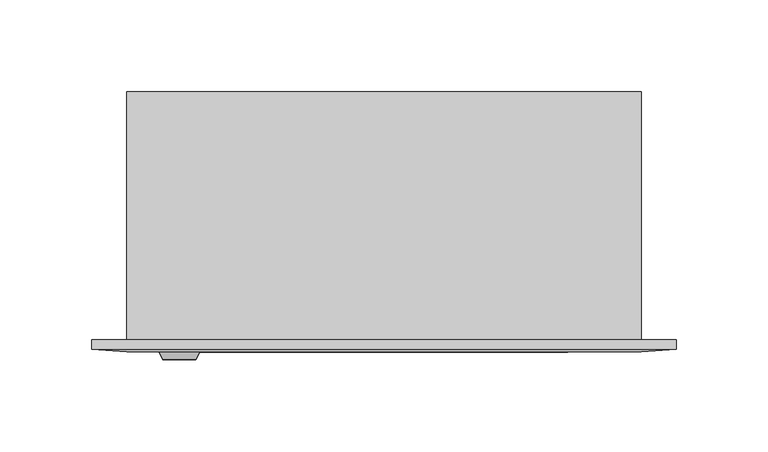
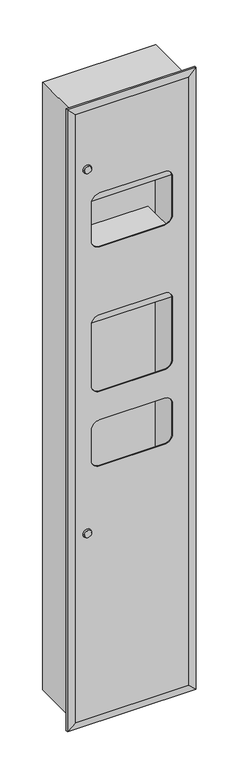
"""IFC4 building model written with IfcOpenShell, lengths in millimetres: proxy geometry, Hand Dryer_3 In 1_Metlam_Eco_Recessed : 318w x 142d x 1625h (ML_ECO_73N1REC)."""

from ifc_helpers import new_model, si_unit, frame, origin, place, context, project, spatial, polyline, circle_curve, outline, extrude, faceted_brep, source, transform, mapped, element, save
from ifc_brep_helpers import plane_surface, revolved_surface, advanced_brep


def specialty_equipment_ddab9f5c(model_context):
    return source(origin(), model_context, "Body", "SolidModel", [
        advanced_brep(
        [(140.0, -135.0, 18.5), (140.0, -135.0, 1606.5), (-140.0, -135.0, 1606.5), (-140.0, -135.0, 18.5), (-138.0, -135.0, 1604.5), (138.0, -135.0, 1604.5), (138.0, -135.0, 20.5), (-138.0, -135.0, 20.5), (-140.0, 0.0, 1606.5), (140.0, 0.0, 1606.5), (140.0, 0.0, 18.5), (-140.0, 0.0, 18.5), (95.0523589, 0.0, 1063.5), (105.0523589, 0.0, 1063.5), (-140.0, -2.0, 18.5), (-140.0, -135.0, 18.5), (-140.0, -135.0, 1606.5), (-140.0, -2.0, 1606.5), (140.0, -2.0, 18.5), (140.0, -135.0, 18.5), (140.0, -2.0, 1606.5), (140.0, -135.0, 1606.5), (-138.0, -2.0, 1604.5), (138.0, -2.0, 1604.5), (138.0, -2.0, 20.5), (-138.0, -2.0, 20.5), (105.0523589, -2.0, 1063.5), (95.0523589, -2.0, 1063.5), (140.0, -141.5, 1606.5), (-140.0, -141.5, 1606.5), (-140.0, -141.5, 18.5), (140.0, -141.5, 18.5), (-100.0, -141.5, 1361.5), (-80.0, -141.5, 1381.5), (80.0, -141.5, 1381.5), (100.0, -141.5, 1361.5), (100.0, -141.5, 1261.5), (80.0, -141.5, 1241.5), (-80.0, -141.5, 1241.5), (-100.0, -141.5, 1261.5), (80.0, -141.5, 863.5), (-80.0, -141.5, 863.5), (-100.0, -141.5, 883.5), (-100.0, -141.5, 1043.5), (-80.0, -141.5, 1063.5), (80.0, -141.5, 1063.5), (100.0, -141.5, 1043.5), (100.0, -141.5, 883.5), (-100.0, -141.5, 688.5), (-100.0, -141.5, 768.5), (-80.0, -141.5, 788.5), (80.0, -141.5, 788.5), (100.0, -141.5, 768.5), (100.0, -141.5, 688.5), (80.0, -141.5, 668.5), (-80.0, -141.5, 668.5), (140.0, -140.0, 1606.5), (140.0, -140.0, 18.5), (-140.0, -140.0, 18.5), (-140.0, -140.0, 1606.5), (-80.0, -140.0, 1381.5), (-100.0, -140.0, 1361.5), (-100.0, -140.0, 1261.5), (-80.0, -140.0, 1241.5), (80.0, -140.0, 1241.5), (100.0, -140.0, 1261.5), (100.0, -140.0, 1361.5), (80.0, -140.0, 1381.5), (-80.0, -140.0, 863.5), (80.0, -140.0, 863.5), (100.0, -140.0, 883.5), (100.0, -140.0, 1043.5), (80.0, -140.0, 1063.5), (-80.0, -140.0, 1063.5), (-100.0, -140.0, 1043.5), (-100.0, -140.0, 883.5), (-100.0, -140.0, 768.5), (-100.0, -140.0, 688.5), (-80.0, -140.0, 668.5), (80.0, -140.0, 668.5), (100.0, -140.0, 688.5), (100.0, -140.0, 768.5), (80.0, -140.0, 788.5), (-80.0, -140.0, 788.5), (159.0, -140.0, 1625.0), (-159.0, -140.0, 1625.0), (-159.0, -140.0, 0.0), (159.0, -140.0, 0.0), (-159.0, -135.0, 0.0), (-159.0, -135.0, 1625.0), (159.0, -135.0, 1625.0), (159.0, -135.0, 0.0)],
        [
            (0, 1),
            (1, 2),
            (2, 3),
            (3, 0),
            (4, 5),
            (5, 6),
            (6, 7),
            (7, 4),
            (8, 9),
            (9, 10),
            (10, 11),
            (11, 8),
            (12, 13, circle_curve(frame((100.0523589, 0.0, 1063.5), z_axis=(0.0, -1.0, 0.0), x_axis=(1.0, 0.0, 0.0)), 5.0)),
            (13, 12, circle_curve(frame((100.0523589, 0.0, 1063.5), z_axis=(0.0, -1.0, 0.0), x_axis=(1.0, 0.0, 0.0)), 5.0)),
            (11, 14),
            (14, 15),
            (15, 16),
            (16, 17),
            (17, 8),
            (10, 18),
            (18, 19),
            (19, 15),
            (9, 20),
            (20, 21),
            (21, 19),
            (16, 21),
            (4, 22),
            (22, 23),
            (23, 5),
            (23, 24),
            (24, 6),
            (24, 25),
            (25, 7),
            (25, 22),
            (26, 27, circle_curve(frame((100.0523589, -2.0, 1063.5), z_axis=(0.0, 1.0, 0.0), x_axis=(1.0, 0.0, 0.0)), 5.0)),
            (27, 26, circle_curve(frame((100.0523589, -2.0, 1063.5), z_axis=(0.0, 1.0, 0.0), x_axis=(1.0, 0.0, 0.0)), 5.0)),
            (28, 29),
            (29, 30),
            (30, 31),
            (31, 28),
            (32, 33, circle_curve(frame((-80.0, -141.5, 1361.5), z_axis=(0.0, 1.0, 0.0), x_axis=(1.0, 0.0, 0.0)), 20.0)),
            (33, 34),
            (34, 35, circle_curve(frame((80.0, -141.5, 1361.5), z_axis=(0.0, 1.0, 0.0), x_axis=(1.0, 0.0, 0.0)), 20.0)),
            (35, 36),
            (36, 37, circle_curve(frame((80.0, -141.5, 1261.5), z_axis=(0.0, 1.0, 0.0), x_axis=(1.0, 0.0, 0.0)), 20.0)),
            (37, 38),
            (38, 39, circle_curve(frame((-80.0, -141.5, 1261.5), z_axis=(0.0, 1.0, 0.0), x_axis=(1.0, 0.0, 0.0)), 20.0)),
            (39, 32),
            (40, 41),
            (41, 42, circle_curve(frame((-80.0, -141.5, 883.5), z_axis=(0.0, 1.0, 0.0), x_axis=(1.0, 0.0, 0.0)), 20.0)),
            (42, 43),
            (43, 44, circle_curve(frame((-80.0, -141.5, 1043.5), z_axis=(0.0, 1.0, 0.0), x_axis=(1.0, 0.0, 0.0)), 20.0)),
            (44, 45),
            (45, 46, circle_curve(frame((80.0, -141.5, 1043.5), z_axis=(0.0, 1.0, 0.0), x_axis=(1.0, 0.0, 0.0)), 20.0)),
            (46, 47),
            (47, 40, circle_curve(frame((80.0, -141.5, 883.5), z_axis=(0.0, 1.0, 0.0), x_axis=(1.0, 0.0, 0.0)), 20.0)),
            (48, 49),
            (49, 50, circle_curve(frame((-80.0, -141.5, 768.5), z_axis=(0.0, 1.0, 0.0), x_axis=(1.0, 0.0, 0.0)), 20.0)),
            (50, 51),
            (51, 52, circle_curve(frame((80.0, -141.5, 768.5), z_axis=(0.0, 1.0, 0.0), x_axis=(1.0, 0.0, 0.0)), 20.0)),
            (52, 53),
            (53, 54, circle_curve(frame((80.0, -141.5, 688.5), z_axis=(0.0, 1.0, 0.0), x_axis=(1.0, 0.0, 0.0)), 20.0)),
            (54, 55),
            (55, 48, circle_curve(frame((-80.0, -141.5, 688.5), z_axis=(0.0, 1.0, 0.0), x_axis=(1.0, 0.0, 0.0)), 20.0)),
            (56, 57),
            (57, 58),
            (58, 59),
            (59, 56),
            (60, 61, circle_curve(frame((-80.0, -140.0, 1361.5), z_axis=(0.0, -1.0, 0.0), x_axis=(1.0, 0.0, 0.0)), 20.0)),
            (61, 62),
            (62, 63, circle_curve(frame((-80.0, -140.0, 1261.5), z_axis=(0.0, -1.0, 0.0), x_axis=(1.0, 0.0, 0.0)), 20.0)),
            (63, 64),
            (64, 65, circle_curve(frame((80.0, -140.0, 1261.5), z_axis=(0.0, -1.0, 0.0), x_axis=(1.0, 0.0, 0.0)), 20.0)),
            (65, 66),
            (66, 67, circle_curve(frame((80.0, -140.0, 1361.5), z_axis=(0.0, -1.0, 0.0), x_axis=(1.0, 0.0, 0.0)), 20.0)),
            (67, 60),
            (68, 69),
            (69, 70, circle_curve(frame((80.0, -140.0, 883.5), z_axis=(0.0, -1.0, 0.0), x_axis=(1.0, 0.0, 0.0)), 20.0)),
            (70, 71),
            (71, 72, circle_curve(frame((80.0, -140.0, 1043.5), z_axis=(0.0, -1.0, 0.0), x_axis=(1.0, 0.0, 0.0)), 20.0)),
            (72, 73),
            (73, 74, circle_curve(frame((-80.0, -140.0, 1043.5), z_axis=(0.0, -1.0, 0.0), x_axis=(1.0, 0.0, 0.0)), 20.0)),
            (74, 75),
            (75, 68, circle_curve(frame((-80.0, -140.0, 883.5), z_axis=(0.0, -1.0, 0.0), x_axis=(1.0, 0.0, 0.0)), 20.0)),
            (76, 77),
            (77, 78, circle_curve(frame((-80.0, -140.0, 688.5), z_axis=(0.0, -1.0, 0.0), x_axis=(1.0, 0.0, 0.0)), 20.0)),
            (78, 79),
            (79, 80, circle_curve(frame((80.0, -140.0, 688.5), z_axis=(0.0, -1.0, 0.0), x_axis=(1.0, 0.0, 0.0)), 20.0)),
            (80, 81),
            (81, 82, circle_curve(frame((80.0, -140.0, 768.5), z_axis=(0.0, -1.0, 0.0), x_axis=(1.0, 0.0, 0.0)), 20.0)),
            (82, 83),
            (83, 76, circle_curve(frame((-80.0, -140.0, 768.5), z_axis=(0.0, -1.0, 0.0), x_axis=(1.0, 0.0, 0.0)), 20.0)),
            (28, 84),
            (84, 85),
            (85, 29),
            (85, 86),
            (86, 30),
            (86, 87),
            (87, 31),
            (87, 84),
            (88, 89),
            (89, 90),
            (90, 91),
            (91, 88),
            (56, 1),
            (0, 57),
            (3, 58),
            (2, 59),
            (91, 87),
            (86, 88),
            (90, 84),
            (89, 85),
            (76, 49),
            (48, 77),
            (78, 55),
            (54, 79),
            (80, 53),
            (52, 81),
            (82, 51),
            (50, 83),
            (60, 33),
            (32, 61),
            (39, 62),
            (38, 63),
            (37, 64),
            (36, 65),
            (35, 66),
            (34, 67),
            (68, 41),
            (40, 69),
            (70, 47),
            (46, 71),
            (72, 45),
            (44, 73),
            (74, 43),
            (42, 75),
            (26, 13),
            (12, 27),
        ],
        [
            plane_surface(frame((-140.0, -135.0, 18.5), z_axis=(0.0, -1.0, 0.0), x_axis=(0.0, 0.0, -1.0))),
            plane_surface(frame((-140.0, 0.0, 18.5), z_axis=(0.0, 1.0, 0.0), x_axis=(0.0, 0.0, 1.0))),
            plane_surface(frame((-140.0, -135.0, 1606.5), z_axis=(-1.0, 0.0, 0.0), x_axis=(0.0, 1.0, 0.0))),
            plane_surface(frame((-140.0, -135.0, 18.5), z_axis=(0.0, 0.0, -1.0), x_axis=(0.0, 1.0, 0.0))),
            plane_surface(frame((140.0, -135.0, 18.5), z_axis=(1.0, 0.0, 0.0), x_axis=(0.0, 1.0, 0.0))),
            plane_surface(frame((140.0, -135.0, 1606.5), z_axis=(0.0, 0.0, 1.0), x_axis=(0.0, 1.0, 0.0))),
            plane_surface(frame((-138.0, -135.0, 1604.5), z_axis=(0.0, 0.0, -1.0), x_axis=(0.0, 1.0, 0.0))),
            plane_surface(frame((138.0, -135.0, 1604.5), z_axis=(-1.0, 0.0, 0.0), x_axis=(0.0, 1.0, 0.0))),
            plane_surface(frame((138.0, -135.0, 20.5), z_axis=(0.0, 0.0, 1.0), x_axis=(0.0, 1.0, 0.0))),
            plane_surface(frame((-138.0, -135.0, 20.5), z_axis=(1.0, 0.0, 0.0), x_axis=(0.0, 1.0, 0.0))),
            plane_surface(frame((-140.0, -2.0, 18.5), z_axis=(0.0, -1.0, 0.0), x_axis=(0.0, 0.0, -1.0))),
            plane_surface(frame((0.0, -141.5, 812.5), z_axis=(0.0, -1.0, 0.0), x_axis=(-1.0, 0.0, 0.0))),
            plane_surface(frame((0.0, -140.0, 812.5), z_axis=(0.0, 1.0, 0.0), x_axis=(-1.0, 0.0, 0.0))),
            plane_surface(frame((0.0, -140.0, 1625.0), z_axis=(0.0, -0.996729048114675, 0.08081586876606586), x_axis=(-1.0, 0.0, 0.0))),
            plane_surface(frame((-159.0, -140.0, 812.5), z_axis=(-0.07870248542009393, -0.996898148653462, 0.0), x_axis=(0.0, 0.0, -1.0))),
            plane_surface(frame((0.0, -140.0, 0.0), z_axis=(0.0, -0.9967290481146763, -0.08081586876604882), x_axis=(1.0, 0.0, 0.0))),
            plane_surface(frame((159.0, -140.0, 812.5), z_axis=(0.07870248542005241, -0.9968981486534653, 0.0), x_axis=(0.0, 0.0, 1.0))),
            plane_surface(frame((140.0, -135.0, 1606.5), z_axis=(0.0, 1.0, 0.0), x_axis=(0.0, 0.0, 1.0))),
            plane_surface(frame((140.0, -140.0, 1606.5), z_axis=(-1.0, 0.0, 0.0), x_axis=(0.0, 1.0, 0.0))),
            plane_surface(frame((140.0, -140.0, 18.5), z_axis=(0.0, 0.0, 1.0), x_axis=(0.0, 1.0, 0.0))),
            plane_surface(frame((-140.0, -140.0, 18.5), z_axis=(1.0, 0.0, 0.0), x_axis=(0.0, 1.0, 0.0))),
            plane_surface(frame((-140.0, -140.0, 1606.5), z_axis=(0.0, 0.0, -1.0), x_axis=(0.0, 1.0, 0.0))),
            plane_surface(frame((-159.0, -140.0, 0.0), z_axis=(0.0, 0.0, -1.0), x_axis=(0.0, 1.0, 0.0))),
            plane_surface(frame((159.0, -140.0, 0.0), z_axis=(1.0, 0.0, 0.0), x_axis=(0.0, 1.0, 0.0))),
            plane_surface(frame((159.0, -140.0, 1625.0), z_axis=(0.0, 0.0, 1.0), x_axis=(0.0, 1.0, 0.0))),
            plane_surface(frame((-159.0, -140.0, 1625.0), z_axis=(-1.0, 0.0, 0.0), x_axis=(0.0, 1.0, 0.0))),
            plane_surface(frame((-100.0, -141.5, 768.5), z_axis=(1.0, 0.0, 0.0), x_axis=(0.0, 1.0, 0.0))),
            plane_surface(frame((-80.0, -141.5, 668.5), z_axis=(0.0, 0.0, 1.0), x_axis=(0.0, 1.0, 0.0))),
            plane_surface(frame((100.0, -141.5, 688.5), z_axis=(-1.0, 0.0, 0.0), x_axis=(0.0, 1.0, 0.0))),
            plane_surface(frame((80.0, -141.5, 788.5), z_axis=(0.0, 0.0, -1.0), x_axis=(0.0, 1.0, 0.0))),
            revolved_surface(polyline([(-60.0, -141.5, 1361.5), (-60.0, -140.0, 1361.5)]), (-80.0, -135.0, 1361.5), (0.0, -1.0, 0.0)),
            plane_surface(frame((-100.0, -141.5, 1361.5), z_axis=(1.0, 0.0, 0.0), x_axis=(0.0, 1.0, 0.0))),
            revolved_surface(polyline([(-60.0, -141.5, 1261.5), (-60.0, -140.0, 1261.5)]), (-80.0, -135.0, 1261.5), (0.0, -1.0, 0.0)),
            plane_surface(frame((-80.0, -141.5, 1241.5), z_axis=(0.0, 0.0, 1.0), x_axis=(0.0, 1.0, 0.0))),
            revolved_surface(polyline([(100.0, -141.5, 1261.5), (100.0, -140.0, 1261.5)]), (80.0, -135.0, 1261.5), (0.0, -1.0, 0.0)),
            plane_surface(frame((100.0, -141.5, 1261.5), z_axis=(-1.0, 0.0, 0.0), x_axis=(0.0, 1.0, 0.0))),
            revolved_surface(polyline([(100.0, -141.5, 1361.5), (100.0, -140.0, 1361.5)]), (80.0, -135.0, 1361.5), (0.0, -1.0, 0.0)),
            plane_surface(frame((80.0, -141.5, 1381.5), z_axis=(0.0, 0.0, -1.0), x_axis=(0.0, 1.0, 0.0))),
            revolved_surface(polyline([(-60.0, -141.5, 768.5), (-60.0, -140.0, 768.5)]), (-80.0, -135.0, 768.5), (0.0, -1.0, 0.0)),
            revolved_surface(polyline([(-60.0, -141.5, 688.5), (-60.0, -140.0, 688.5)]), (-80.0, -135.0, 688.5), (0.0, -1.0, 0.0)),
            revolved_surface(polyline([(100.0, -141.5, 688.5), (100.0, -140.0, 688.5)]), (80.0, -135.0, 688.5), (0.0, -1.0, 0.0)),
            revolved_surface(polyline([(100.0, -141.5, 768.5), (100.0, -140.0, 768.5)]), (80.0, -135.0, 768.5), (0.0, -1.0, 0.0)),
            plane_surface(frame((-80.0, -141.5, 863.5), z_axis=(0.0, 0.0, 1.0), x_axis=(0.0, 1.0, 0.0))),
            plane_surface(frame((100.0, -141.5, 883.5), z_axis=(-1.0, 0.0, 0.0), x_axis=(0.0, 1.0, 0.0))),
            plane_surface(frame((80.0, -141.5, 1063.5), z_axis=(0.0, 0.0, -1.0), x_axis=(0.0, 1.0, 0.0))),
            plane_surface(frame((-100.0, -141.5, 1043.5), z_axis=(1.0, 0.0, 0.0), x_axis=(0.0, 1.0, 0.0))),
            revolved_surface(polyline([(-60.0, -141.5, 883.5), (-60.0, -140.0, 883.5)]), (-80.0, -135.0, 883.5), (0.0, -1.0, 0.0)),
            revolved_surface(polyline([(100.0, -141.5, 883.5), (100.0, -140.0, 883.5)]), (80.0, -135.0, 883.5), (0.0, -1.0, 0.0)),
            revolved_surface(polyline([(100.0, -141.5, 1043.5), (100.0, -140.0, 1043.5)]), (80.0, -135.0, 1043.5), (0.0, -1.0, 0.0)),
            revolved_surface(polyline([(-60.0, -141.5, 1043.5), (-60.0, -140.0, 1043.5)]), (-80.0, -135.0, 1043.5), (0.0, -1.0, 0.0)),
            revolved_surface(polyline([(105.0523589, -2.0, 1063.5), (105.0523589, 0.0, 1063.5)]), (100.0523589, 0.0, 1063.5), (0.0, -1.0, 0.0)),
        ],
        [
            (0, [[1, 2, 3, 4], [5, 6, 7, 8]]),
            (1, [[9, 10, 11, 12], [13, 14]]),
            (2, [[-12, 15, 16, 17, 18, 19]]),
            (3, [[-11, 20, 21, 22, -16, -15]]),
            (4, [[-10, 23, 24, 25, -21, -20]]),
            (5, [[-9, -19, -18, 26, -24, -23]]),
            (6, [[-5, 27, 28, 29]]),
            (7, [[-6, -29, 30, 31]]),
            (8, [[-7, -31, 32, 33]]),
            (9, [[-8, -33, 34, -27]]),
            (10, [[-28, -34, -32, -30], [35, 36]]),
            (11, [[37, 38, 39, 40], [41, 42, 43, 44, 45, 46, 47, 48], [49, 50, 51, 52, 53, 54, 55, 56], [57, 58, 59, 60, 61, 62, 63, 64]]),
            (12, [[65, 66, 67, 68], [69, 70, 71, 72, 73, 74, 75, 76], [77, 78, 79, 80, 81, 82, 83, 84], [85, 86, 87, 88, 89, 90, 91, 92]]),
            (13, [[-37, 93, 94, 95]]),
            (14, [[-38, -95, 96, 97]]),
            (15, [[-39, -97, 98, 99]]),
            (16, [[-40, -99, 100, -93]]),
            (17, [[101, 102, 103, 104], [-17, -22, -25, -26]]),
            (18, [[105, -1, 106, -65]]),
            (19, [[-106, -4, 107, -66]]),
            (20, [[-107, -3, 108, -67]]),
            (21, [[-105, -68, -108, -2]]),
            (22, [[-104, 109, -98, 110]]),
            (23, [[-103, 111, -100, -109]]),
            (24, [[-102, 112, -94, -111]]),
            (25, [[-101, -110, -96, -112]]),
            (26, [[113, -57, 114, -85]]),
            (27, [[115, -63, 116, -87]]),
            (28, [[117, -61, 118, -89]]),
            (29, [[119, -59, 120, -91]]),
            (30, [[121, -41, 122, -69]]),
            (31, [[-122, -48, 123, -70]]),
            (32, [[-123, -47, 124, -71]]),
            (33, [[-124, -46, 125, -72]]),
            (34, [[-125, -45, 126, -73]]),
            (35, [[-126, -44, 127, -74]]),
            (36, [[-127, -43, 128, -75]]),
            (37, [[-121, -76, -128, -42]]),
            (38, [[-113, -92, -120, -58]]),
            (39, [[-115, -86, -114, -64]]),
            (40, [[-117, -88, -116, -62]]),
            (41, [[-119, -90, -118, -60]]),
            (42, [[129, -49, 130, -77]]),
            (43, [[131, -55, 132, -79]]),
            (44, [[133, -53, 134, -81]]),
            (45, [[135, -51, 136, -83]]),
            (46, [[-129, -84, -136, -50]]),
            (47, [[-131, -78, -130, -56]]),
            (48, [[-133, -80, -132, -54]]),
            (49, [[-135, -82, -134, -52]]),
            (50, [[137, -13, 138, -35]]),
            (50, [[-137, -36, -138, -14]]),
        ],
    ),
        faceted_brep([(-100.0, -16.2385381, 1587.0), (100.0, -16.2385381, 1587.0), (100.0, -16.2385381, 1361.5), (-100.0, -16.2385381, 1361.5), (-100.0, -135.0, 1587.0), (-100.0, -135.0, 1361.5), (100.0, -135.0, 1361.5), (100.0, -135.0, 1587.0)], [[[0, 1, 2, 3]], [[4, 5, 6, 7]], [[0, 3, 5, 4]], [[3, 2, 6, 5]], [[2, 1, 7, 6]], [[1, 0, 4, 7]]]),
        advanced_brep(
        [(-120.3298003, -145.5, 1454.8885416), (-102.3298003, -145.5, 1454.8885416), (-122.3298003, -141.5, 1454.8885416), (-100.3298003, -141.5, 1454.8885416)],
        [
            (0, 1, circle_curve(frame((-111.3298003, -145.5, 1454.8885416), z_axis=(0.0, -1.0, 0.0), x_axis=(-1.0, 0.0, 0.0)), 9.0)),
            (1, 0, circle_curve(frame((-111.3298003, -145.5, 1454.8885416), z_axis=(0.0, -1.0, 0.0), x_axis=(1.0, 0.0, 0.0)), 9.0)),
            (2, 3, circle_curve(frame((-111.3298003, -141.5, 1454.8885416), z_axis=(0.0, 1.0, 0.0), x_axis=(1.0, 0.0, 0.0)), 11.0)),
            (3, 2, circle_curve(frame((-111.3298003, -141.5, 1454.8885416), z_axis=(0.0, 1.0, 0.0), x_axis=(-1.0, 0.0, 0.0)), 11.0)),
            (2, 0),
            (1, 3),
        ],
        [
            plane_surface(frame((-111.3298003, -145.5, 1454.8885416), z_axis=(0.0, -1.0, 0.0), x_axis=(0.0, 0.0, -1.0))),
            plane_surface(frame((-111.3298003, -141.5, 1454.8885416), z_axis=(0.0, 1.0, 0.0), x_axis=(0.0, 0.0, -1.0))),
            revolved_surface(polyline([(-102.3298003, -145.5, 1454.8885416), (-100.3298003, -141.5, 1454.8885416)]), (-111.3298003, -163.5, 1454.8885416), (0.0, 1.0, 0.0)),
            revolved_surface(polyline([(-120.3298003, -145.5, 1454.8885416), (-122.3298003, -141.5, 1454.8885416)]), (-111.3298003, -163.5, 1454.8885416), (0.0, 1.0, 0.0)),
        ],
        [
            (0, [[1, 2]]),
            (1, [[3, 4]]),
            (2, [[-3, 5, -2, 6]]),
            (3, [[-4, -6, -1, -5]]),
        ],
    ),
        advanced_brep(
        [(-120.3298003, -145.5, 503.6114584), (-102.3298003, -145.5, 503.6114584), (-122.3298003, -141.5, 503.6114584), (-100.3298003, -141.5, 503.6114584)],
        [
            (0, 1, circle_curve(frame((-111.3298003, -145.5, 503.6114584), z_axis=(0.0, -1.0, 0.0), x_axis=(-1.0, 0.0, 0.0)), 9.0)),
            (1, 0, circle_curve(frame((-111.3298003, -145.5, 503.6114584), z_axis=(0.0, -1.0, 0.0), x_axis=(1.0, 0.0, 0.0)), 9.0)),
            (2, 3, circle_curve(frame((-111.3298003, -141.5, 503.6114584), z_axis=(0.0, 1.0, 0.0), x_axis=(1.0, 0.0, 0.0)), 11.0)),
            (3, 2, circle_curve(frame((-111.3298003, -141.5, 503.6114584), z_axis=(0.0, 1.0, 0.0), x_axis=(-1.0, 0.0, 0.0)), 11.0)),
            (3, 1),
            (0, 2),
        ],
        [
            plane_surface(frame((-111.3298003, -145.5, 503.6114584), z_axis=(0.0, -1.0, 0.0), x_axis=(0.0, 0.0, -1.0))),
            plane_surface(frame((-111.3298003, -141.5, 503.6114584), z_axis=(0.0, 1.0, 0.0), x_axis=(0.0, 0.0, -1.0))),
            revolved_surface(polyline([(-120.3298003, -145.5, 503.6114584), (-122.3298003, -141.5, 503.6114584)]), (-111.3298003, -163.5, 503.6114584), (0.0, 1.0, 0.0)),
            revolved_surface(polyline([(-102.3298003, -145.5, 503.6114584), (-100.3298003, -141.5, 503.6114584)]), (-111.3298003, -163.5, 503.6114584), (0.0, 1.0, 0.0)),
        ],
        [
            (0, [[1, 2]]),
            (1, [[3, 4]]),
            (2, [[-4, 5, -1, 6]]),
            (3, [[-3, -6, -2, -5]]),
        ],
    ),
        extrude(outline(polyline([(112.0, -135.0), (-118.0, -135.0), (-118.0, -16.2385381), (112.0, -16.2385381), (112.0, -135.0)])), frame((0.0, 0.0, 1043.5), z_axis=(0.0, 0.0, 1.0), x_axis=(1.0, 0.0, 0.0)), (0.0, 0.0, 1.0), 160.5),
    ])


if __name__ == "__main__":
    model = new_model("IFC4")
    model_context = context("Model", 3, world=origin())
    ifc_project = project(units=[si_unit("LENGTHUNIT", "METRE", prefix="MILLI")], contexts=[model_context])
    site = spatial("IfcSite", under=ifc_project)
    building = spatial("IfcBuilding", under=site)
    placement = place(None, origin())
    specialty_equipment_shape = specialty_equipment_ddab9f5c(model_context)
    element("IfcBuildingElementProxy", 1, Name="Hand Dryer_3 In 1_Metlam_Eco_Recessed : 318w x 142d x 1625h (ML_ECO_73N1REC)", ObjectType="Hand Dryer_3 In 1_Metlam_Eco_Recessed : 318w x 142d x 1625h (ML_ECO_73N1REC)", at=placement, inside=building, context=model_context, shape_type="MappedRepresentation", body=[
        mapped(specialty_equipment_shape, transform((0.0, 0.0, 0.0), x_axis=(1.0, 0.0, 0.0), y_axis=(0.0, 1.0, 0.0), z_axis=(0.0, 0.0, 1.0))),
    ])
    save(model, "model.ifc")
